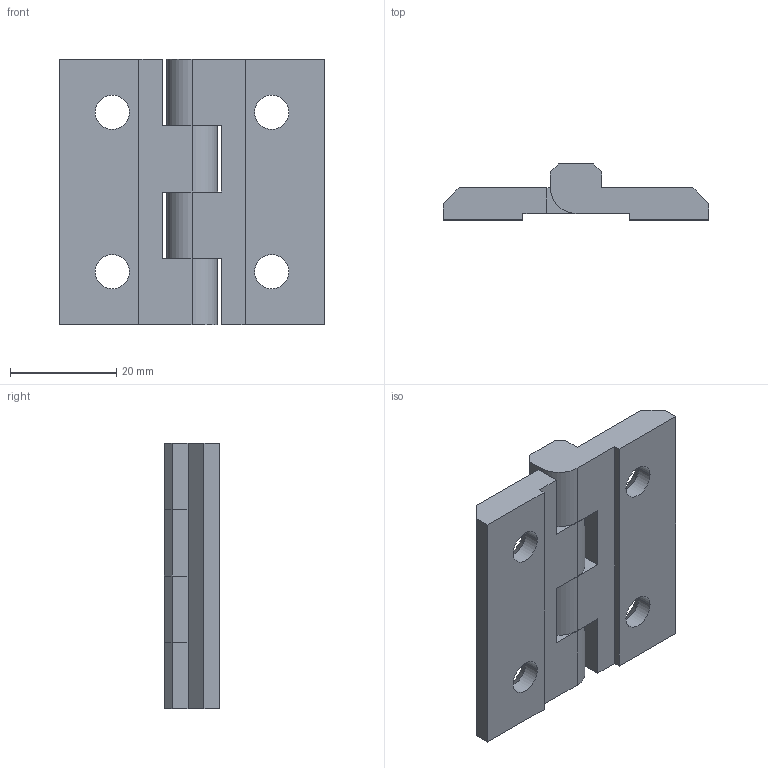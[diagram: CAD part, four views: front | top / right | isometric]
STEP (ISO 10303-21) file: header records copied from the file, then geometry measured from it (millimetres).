
FILE_DESCRIPTION(('STEP AP203'),'1');
FILE_NAME(' ',' ',('TraceParts'),('TraceParts S.A.'),'XStep 1.0',' ',' ');
FILE_SCHEMA(('CONFIG_CONTROL_DESIGN'));
Length unit declared in the file: millimetre
Products named in the file (2): 1; 2
Bounding box: 50 x 10.5 x 50 mm (x, y, z)
Volume: 13735.2 mm3; surface area: 8228.9 mm2
Topology: 2 solids, 2 shells, 75 faces, 202 edges, 132 vertices
Faces by surface type: plane 47, cylinder 20, cone 8
Entity records: 2456 total; most frequent: CARTESIAN_POINT 411, DIRECTION 404, ORIENTED_EDGE 404, EDGE_CURVE 202, LINE 154, VECTOR 154, VERTEX_POINT 132, AXIS2_PLACEMENT_3D 125
